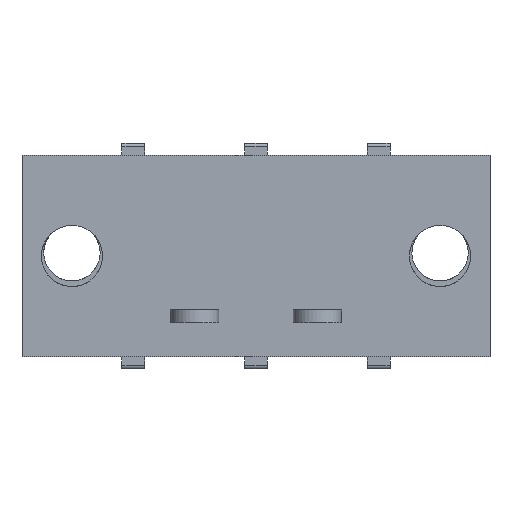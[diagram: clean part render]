
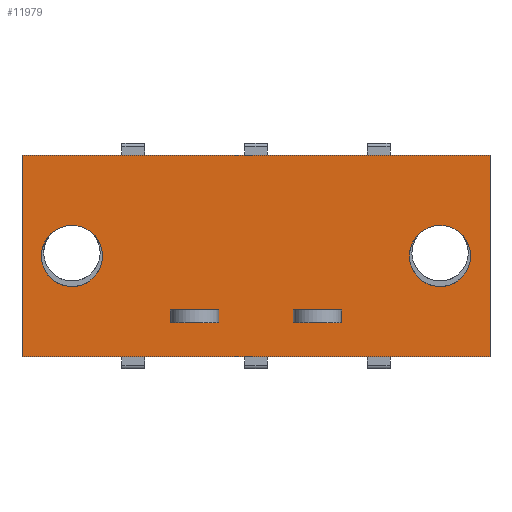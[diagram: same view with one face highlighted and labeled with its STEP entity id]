
A CAD part, front view. The second image highlights one B-rep face of the part: STEP entity #11979.
In plain terms, the highlighted planar face has unit normal (0, -1, 0).
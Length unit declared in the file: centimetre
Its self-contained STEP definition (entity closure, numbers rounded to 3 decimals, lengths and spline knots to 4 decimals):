
#596=CIRCLE('',#20012,0.19);
#690=CIRCLE('',#20276,0.19);
#811=VERTEX_POINT('',#15425);
#812=VERTEX_POINT('',#15426);
#817=VERTEX_POINT('',#15438);
#823=VERTEX_POINT('',#15452);
#1228=VERTEX_POINT('',#17150);
#1229=VERTEX_POINT('',#17152);
#1230=VERTEX_POINT('',#17156);
#1495=VERTEX_POINT('',#18043);
#1496=VERTEX_POINT('',#18044);
#1499=VERTEX_POINT('',#18052);
#1506=VERTEX_POINT('',#18073);
#1547=VERTEX_POINT('',#18196);
#1549=VERTEX_POINT('',#18203);
#1550=VERTEX_POINT('',#18205);
#1992=VECTOR('',#12953,1.);
#1996=VECTOR('',#12962,1.);
#2002=VECTOR('',#12971,1.);
#2017=VECTOR('',#13002,1.);
#2488=VECTOR('',#13665,1.);
#2780=VECTOR('',#14293,1.);
#2784=VECTOR('',#14298,1.);
#2787=VECTOR('',#14321,1.);
#2790=VECTOR('',#14325,1.);
#2838=VECTOR('',#14419,1.);
#2842=VECTOR('',#14426,1.);
#2843=VECTOR('',#14427,1.);
#3356=LINE('',#15424,#1992);
#3360=LINE('',#15437,#1996);
#3366=LINE('',#15451,#2002);
#3381=LINE('',#15491,#2017);
#3852=LINE('',#17151,#2488);
#4144=LINE('',#18042,#2780);
#4148=LINE('',#18051,#2784);
#4151=LINE('',#18072,#2787);
#4154=LINE('',#18077,#2790);
#4202=LINE('',#18195,#2838);
#4206=LINE('',#18204,#2842);
#4207=LINE('',#18206,#2843);
#4795=EDGE_CURVE('',#811,#812,#3356,.T.);
#4801=EDGE_CURVE('',#817,#811,#3360,.T.);
#4808=EDGE_CURVE('',#812,#823,#3366,.T.);
#4826=EDGE_CURVE('',#823,#817,#3381,.T.);
#5413=EDGE_CURVE('',#1229,#1228,#3852,.T.);
#5415=EDGE_CURVE('',#1230,#1230,#596,.T.);
#5818=EDGE_CURVE('',#1495,#1496,#4144,.T.);
#5822=EDGE_CURVE('',#1499,#1495,#4148,.T.);
#5831=EDGE_CURVE('',#1496,#1506,#4151,.T.);
#5834=EDGE_CURVE('',#1506,#1499,#4154,.T.);
#5893=EDGE_CURVE('',#1547,#1228,#4202,.T.);
#5897=EDGE_CURVE('',#1549,#1549,#690,.T.);
#5898=EDGE_CURVE('',#1550,#1229,#4206,.T.);
#5899=EDGE_CURVE('',#1550,#1547,#4207,.T.);
#8911=ORIENTED_EDGE('',*,*,#4801,.T.);
#8912=ORIENTED_EDGE('',*,*,#4795,.T.);
#8913=ORIENTED_EDGE('',*,*,#4808,.T.);
#8914=ORIENTED_EDGE('',*,*,#4826,.T.);
#8915=ORIENTED_EDGE('',*,*,#5415,.T.);
#8916=ORIENTED_EDGE('',*,*,#5897,.T.);
#8917=ORIENTED_EDGE('',*,*,#5822,.F.);
#8918=ORIENTED_EDGE('',*,*,#5834,.F.);
#8919=ORIENTED_EDGE('',*,*,#5831,.F.);
#8920=ORIENTED_EDGE('',*,*,#5818,.F.);
#8921=ORIENTED_EDGE('',*,*,#5898,.T.);
#8922=ORIENTED_EDGE('',*,*,#5413,.T.);
#8923=ORIENTED_EDGE('',*,*,#5893,.F.);
#8924=ORIENTED_EDGE('',*,*,#5899,.F.);
#10531=EDGE_LOOP('',(#8911,#8912,#8913,#8914));
#10532=EDGE_LOOP('',(#8915));
#10533=EDGE_LOOP('',(#8916));
#10534=EDGE_LOOP('',(#8917,#8918,#8919,#8920));
#10535=EDGE_LOOP('',(#8921,#8922,#8923,#8924));
#11281=FACE_BOUND('',#10531,.T.);
#11282=FACE_BOUND('',#10532,.T.);
#11283=FACE_BOUND('',#10533,.T.);
#11284=FACE_BOUND('',#10534,.T.);
#11285=FACE_BOUND('',#10535,.T.);
#11979=ADVANCED_FACE('',(#11281,#11282,#11283,#11284,#11285),#12521,.T.);
#12521=PLANE('',#20275);
#12953=DIRECTION('',(0.,0.,-1.));
#12962=DIRECTION('',(1.,0.,0.));
#12971=DIRECTION('',(-1.,0.,0.));
#13002=DIRECTION('',(0.,0.,1.));
#13665=DIRECTION('',(0.,0.,1.));
#13669=DIRECTION('',(0.,1.,0.));
#13670=DIRECTION('',(0.19,0.,0.));
#14293=DIRECTION('',(0.,0.,-1.));
#14298=DIRECTION('',(-1.,0.,0.));
#14321=DIRECTION('',(1.,0.,0.));
#14325=DIRECTION('',(0.,0.,1.));
#14419=DIRECTION('',(1.,0.,0.));
#14423=DIRECTION('',(0.,-1.,0.));
#14424=DIRECTION('',(0.,1.,0.));
#14425=DIRECTION('',(0.19,0.,0.));
#14426=DIRECTION('',(1.,0.,0.));
#14427=DIRECTION('',(0.,0.,1.));
#15424=CARTESIAN_POINT('',(0.912,-0.53,-0.1875));
#15425=CARTESIAN_POINT('',(0.912,-0.53,-0.335));
#15426=CARTESIAN_POINT('',(0.912,-0.53,-0.415));
#15437=CARTESIAN_POINT('',(0.155,-0.53,-0.335));
#15438=CARTESIAN_POINT('',(0.612,-0.53,-0.335));
#15451=CARTESIAN_POINT('',(0.155,-0.53,-0.415));
#15452=CARTESIAN_POINT('',(0.612,-0.53,-0.415));
#15491=CARTESIAN_POINT('',(0.612,-0.53,-0.1875));
#17150=CARTESIAN_POINT('',(1.834,-0.53,0.625));
#17151=CARTESIAN_POINT('',(1.834,-0.53,-0.625));
#17152=CARTESIAN_POINT('',(1.834,-0.53,-0.625));
#17155=CARTESIAN_POINT('',(1.524,-0.53,0.));
#17156=CARTESIAN_POINT('',(1.334,-0.53,0.));
#18042=CARTESIAN_POINT('',(-0.15,-0.53,-0.1875));
#18043=CARTESIAN_POINT('',(-0.15,-0.53,-0.335));
#18044=CARTESIAN_POINT('',(-0.15,-0.53,-0.415));
#18051=CARTESIAN_POINT('',(-0.155,-0.53,-0.335));
#18052=CARTESIAN_POINT('',(0.15,-0.53,-0.335));
#18072=CARTESIAN_POINT('',(-0.155,-0.53,-0.415));
#18073=CARTESIAN_POINT('',(0.15,-0.53,-0.415));
#18077=CARTESIAN_POINT('',(0.15,-0.53,-0.1875));
#18195=CARTESIAN_POINT('',(-1.072,-0.53,0.625));
#18196=CARTESIAN_POINT('',(-1.072,-0.53,0.625));
#18201=CARTESIAN_POINT('',(-0.452,-0.53,0.));
#18202=CARTESIAN_POINT('',(-0.762,-0.53,0.));
#18203=CARTESIAN_POINT('',(-0.952,-0.53,0.));
#18204=CARTESIAN_POINT('',(-1.072,-0.53,-0.625));
#18205=CARTESIAN_POINT('',(-1.072,-0.53,-0.625));
#18206=CARTESIAN_POINT('',(-1.072,-0.53,-0.625));
#20012=AXIS2_PLACEMENT_3D('',#17155,#13669,#13670);
#20275=AXIS2_PLACEMENT_3D('',#18201,#14423,$);
#20276=AXIS2_PLACEMENT_3D('',#18202,#14424,#14425);
